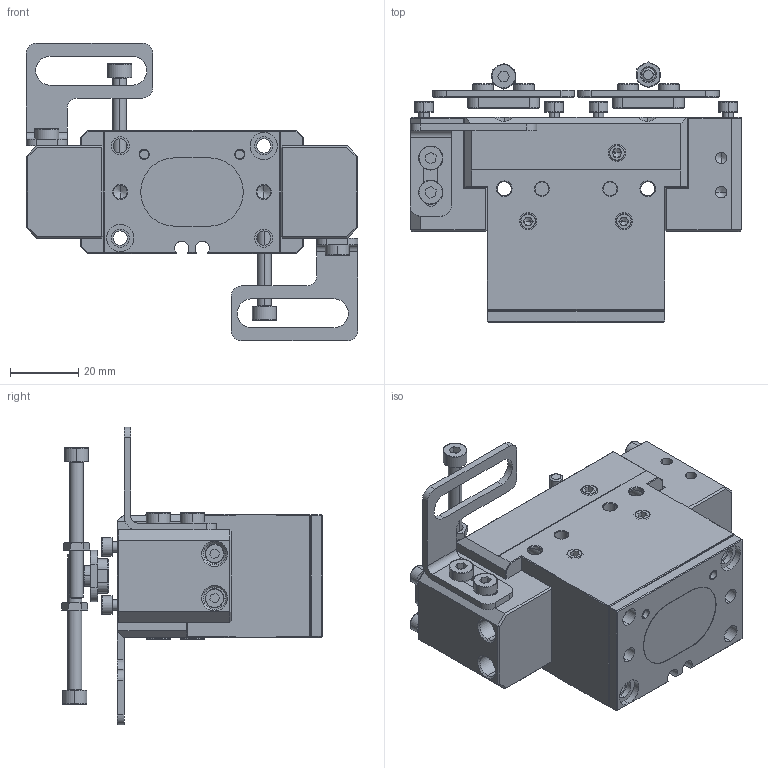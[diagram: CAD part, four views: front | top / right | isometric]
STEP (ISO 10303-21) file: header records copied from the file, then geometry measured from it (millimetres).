
FILE_DESCRIPTION (( 'STEP AP203' ), '1' );
FILE_NAME ('EZ6-2-NC-F.STEP', '2026-09-23T06:54:32', ( '' ), ( '' ), 'SwSTEP 2.0', 'SolidWorks 2026', '' );
FILE_SCHEMA (( 'CONFIG_CONTROL_DESIGN' ));
Products named in the file (1): EZ6-2-NC-F
Bounding box: 97 x 76.23 x 87 mm (x, y, z)
Surface area: 52272.5 mm2 (no closed solid volume)
Topology: 0 solids, 36 shells, 1318 faces, 3253 edges, 2039 vertices
Faces by surface type: plane 628, cylinder 323, cone 261, bspline 106
Entity records: 42621 total; most frequent: CARTESIAN_POINT 11602, DIRECTION 6424, ORIENTED_EDGE 6404, EDGE_CURVE 3204, AXIS2_PLACEMENT_3D 2266, VERTEX_POINT 2039, VECTOR 1892, LINE 1892
